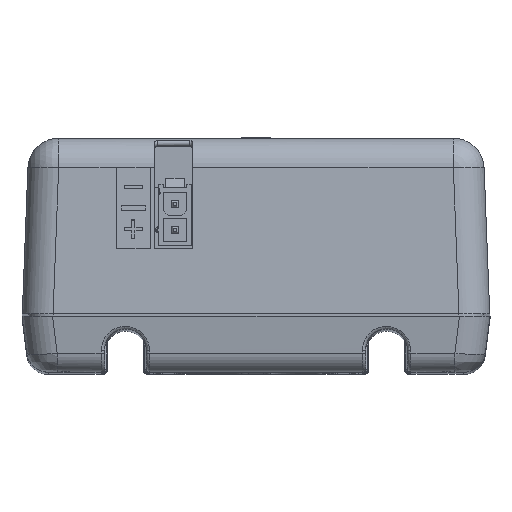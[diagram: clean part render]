
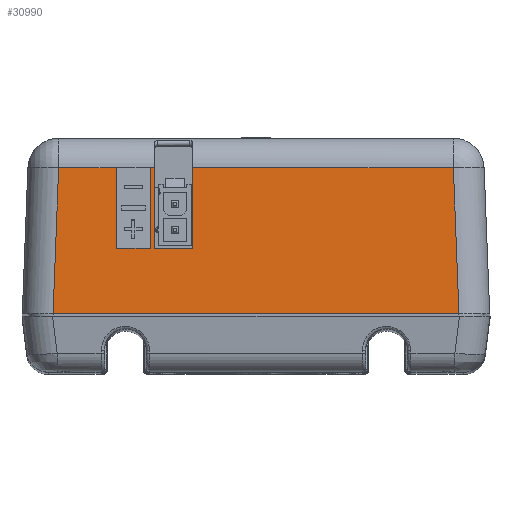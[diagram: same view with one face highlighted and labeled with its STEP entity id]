
A CAD part, top view. The second image highlights one B-rep face of the part: STEP entity #30990.
In plain terms, the highlighted planar face has unit normal (0, 0.038, 0.999).
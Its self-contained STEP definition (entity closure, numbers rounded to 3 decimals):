
#1224=DIRECTION('',(1.,0.,0.));
#1225=VECTOR('',#1224,65.903);
#1226=CARTESIAN_POINT('',(-32.951,9.5,195.988));
#1227=LINE('',#1226,#1225);
#1339=CARTESIAN_POINT('',(-32.951,9.5,195.988));
#1349=DIRECTION('',(0.038,-0.999,0.038));
#1350=VECTOR('',#1349,23.725);
#1351=CARTESIAN_POINT('',(32.047,33.191,195.084));
#1352=LINE('',#1351,#1350);
#1353=DIRECTION('',(0.038,0.999,-0.038));
#1354=VECTOR('',#1353,23.725);
#1355=CARTESIAN_POINT('',(-32.951,9.5,195.988));
#1356=LINE('',#1355,#1354);
#1357=DIRECTION('',(1.,0.,0.));
#1358=VECTOR('',#1357,5.5);
#1359=CARTESIAN_POINT('',(-22.65,20.1,195.583));
#1360=LINE('',#1359,#1358);
#1365=DIRECTION('',(-1.,0.,0.));
#1366=VECTOR('',#1365,6.2);
#1367=CARTESIAN_POINT('',(-10.3,20.1,195.583));
#1368=LINE('',#1367,#1366);
#1382=DIRECTION('',(0.,0.999,-0.038));
#1383=VECTOR('',#1382,13.1);
#1384=CARTESIAN_POINT('',(-16.5,20.1,195.583));
#1385=LINE('',#1384,#1383);
#1436=DIRECTION('',(-1.,0.,0.));
#1437=VECTOR('',#1436,0.65);
#1438=CARTESIAN_POINT('',(-16.5,33.191,195.084));
#1439=LINE('',#1438,#1437);
#1444=DIRECTION('',(-1.,0.,0.));
#1445=VECTOR('',#1444,3.35);
#1446=CARTESIAN_POINT('',(-22.65,33.191,195.084));
#1447=LINE('',#1446,#1445);
#1448=DIRECTION('',(-1.,0.,0.));
#1449=VECTOR('',#1448,6.047);
#1450=CARTESIAN_POINT('',(-26.,33.191,195.084));
#1451=LINE('',#1450,#1449);
#1464=DIRECTION('',(-1.,0.,0.));
#1465=VECTOR('',#1464,6.047);
#1466=CARTESIAN_POINT('',(32.047,33.191,195.084));
#1467=LINE('',#1466,#1465);
#1468=DIRECTION('',(-1.,0.,0.));
#1469=VECTOR('',#1468,36.3);
#1470=CARTESIAN_POINT('',(26.,33.191,195.084));
#1471=LINE('',#1470,#1469);
#1488=DIRECTION('',(0.,0.999,-0.038));
#1489=VECTOR('',#1488,13.1);
#1490=CARTESIAN_POINT('',(-22.65,20.1,195.583));
#1491=LINE('',#1490,#1489);
#1500=DIRECTION('',(0.,-0.999,0.038));
#1501=VECTOR('',#1500,13.1);
#1502=CARTESIAN_POINT('',(-17.15,33.191,195.084));
#1503=LINE('',#1502,#1501);
#1792=DIRECTION('',(0.,-0.999,0.038));
#1793=VECTOR('',#1792,13.1);
#1794=CARTESIAN_POINT('',(-10.3,33.191,195.084));
#1795=LINE('',#1794,#1793);
#26518=VERTEX_POINT('',#1339);
#26519=CARTESIAN_POINT('',(32.951,9.5,195.988));
#26520=VERTEX_POINT('',#26519);
#26552=CARTESIAN_POINT('',(-32.047,33.191,
195.084));
#26553=VERTEX_POINT('',#26552);
#26554=CARTESIAN_POINT('',(-10.3,20.1,195.583));
#26555=CARTESIAN_POINT('',(-16.5,20.1,195.583));
#26556=VERTEX_POINT('',#26554);
#26557=VERTEX_POINT('',#26555);
#26558=CARTESIAN_POINT('',(-10.3,33.191,195.084));
#26559=VERTEX_POINT('',#26558);
#26560=CARTESIAN_POINT('',(26.,33.191,195.084));
#26561=VERTEX_POINT('',#26560);
#26562=CARTESIAN_POINT('',(32.047,33.191,195.084));
#26563=VERTEX_POINT('',#26562);
#26564=CARTESIAN_POINT('',(-26.,33.191,195.084));
#26565=VERTEX_POINT('',#26564);
#26566=CARTESIAN_POINT('',(-22.65,33.191,195.084));
#26567=VERTEX_POINT('',#26566);
#26568=CARTESIAN_POINT('',(-22.65,20.1,195.583));
#26569=VERTEX_POINT('',#26568);
#26570=CARTESIAN_POINT('',(-17.15,20.1,195.583));
#26571=VERTEX_POINT('',#26570);
#26572=CARTESIAN_POINT('',(-17.15,33.191,195.084));
#26573=VERTEX_POINT('',#26572);
#26574=CARTESIAN_POINT('',(-16.5,33.191,195.084));
#26575=VERTEX_POINT('',#26574);
#30957=CARTESIAN_POINT('',(-38.,11.8,195.9));
#30958=DIRECTION('',(0.,0.038,0.999));
#30959=DIRECTION('',(0.,0.999,-0.038));
#30960=AXIS2_PLACEMENT_3D('',#30957,#30958,#30959);
#30961=PLANE('',#30960);
#30963=ORIENTED_EDGE('',*,*,#30962,.F.);
#30965=ORIENTED_EDGE('',*,*,#30964,.F.);
#30967=ORIENTED_EDGE('',*,*,#30966,.F.);
#30969=ORIENTED_EDGE('',*,*,#30968,.F.);
#30971=ORIENTED_EDGE('',*,*,#30970,.T.);
#30972=ORIENTED_EDGE('',*,*,#30854,.F.);
#30973=ORIENTED_EDGE('',*,*,#30950,.T.);
#30975=ORIENTED_EDGE('',*,*,#30974,.F.);
#30977=ORIENTED_EDGE('',*,*,#30976,.F.);
#30979=ORIENTED_EDGE('',*,*,#30978,.F.);
#30981=ORIENTED_EDGE('',*,*,#30980,.T.);
#30983=ORIENTED_EDGE('',*,*,#30982,.F.);
#30985=ORIENTED_EDGE('',*,*,#30984,.F.);
#30987=ORIENTED_EDGE('',*,*,#30986,.F.);
#30988=EDGE_LOOP('',(#30963,#30965,#30967,#30969,#30971,#30972,#30973,#30975,
#30977,#30979,#30981,#30983,#30985,#30987));
#30989=FACE_OUTER_BOUND('',#30988,.F.);
#30990=ADVANCED_FACE('',(#30989),#30961,.T.);
#30854=EDGE_CURVE('',#26518,#26520,#1227,.T.);
#30950=EDGE_CURVE('',#26518,#26553,#1356,.T.);
#30962=EDGE_CURVE('',#26556,#26557,#1368,.T.);
#30964=EDGE_CURVE('',#26559,#26556,#1795,.T.);
#30966=EDGE_CURVE('',#26561,#26559,#1471,.T.);
#30968=EDGE_CURVE('',#26563,#26561,#1467,.T.);
#30970=EDGE_CURVE('',#26563,#26520,#1352,.T.);
#30974=EDGE_CURVE('',#26565,#26553,#1451,.T.);
#30976=EDGE_CURVE('',#26567,#26565,#1447,.T.);
#30978=EDGE_CURVE('',#26569,#26567,#1491,.T.);
#30980=EDGE_CURVE('',#26569,#26571,#1360,.T.);
#30982=EDGE_CURVE('',#26573,#26571,#1503,.T.);
#30984=EDGE_CURVE('',#26575,#26573,#1439,.T.);
#30986=EDGE_CURVE('',#26557,#26575,#1385,.T.);
